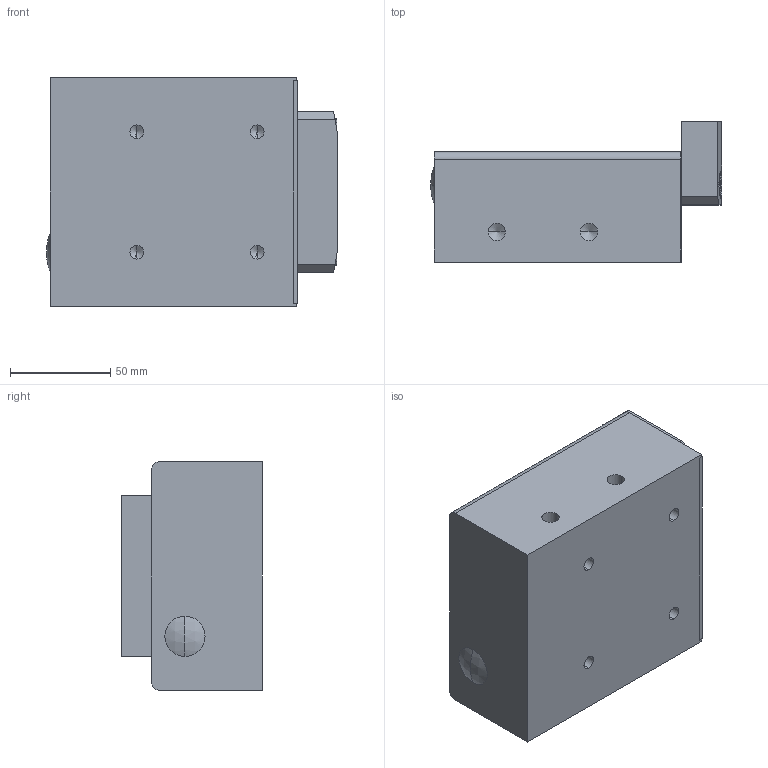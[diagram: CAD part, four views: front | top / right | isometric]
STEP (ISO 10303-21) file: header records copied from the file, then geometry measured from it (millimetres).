
FILE_DESCRIPTION (( 'STEP AP203' ), '1' );
FILE_NAME ('DEUSD-1100.STEP', '2008-09-25T06:22:08', ( '' ), ( '' ), 'SwSTEP 2.0', 'SolidWorks 2007', '' );
FILE_SCHEMA (( 'CONFIG_CONTROL_DESIGN' ));
Length unit declared in the file: millimetre
Products named in the file (1): DEUSD-1100
Bounding box: 145 x 70 x 114 mm (x, y, z)
Volume: 831089.6 mm3; surface area: 81221.6 mm2
Topology: 3 solids, 3 shells, 152 faces, 384 edges, 245 vertices
Faces by surface type: plane 100, cylinder 26, cone 20, torus 4, sphere 2
Entity records: 4533 total; most frequent: CARTESIAN_POINT 782, DIRECTION 754, ORIENTED_EDGE 744, EDGE_CURVE 372, VECTOR 288, LINE 288, VERTEX_POINT 245, AXIS2_PLACEMENT_3D 233
